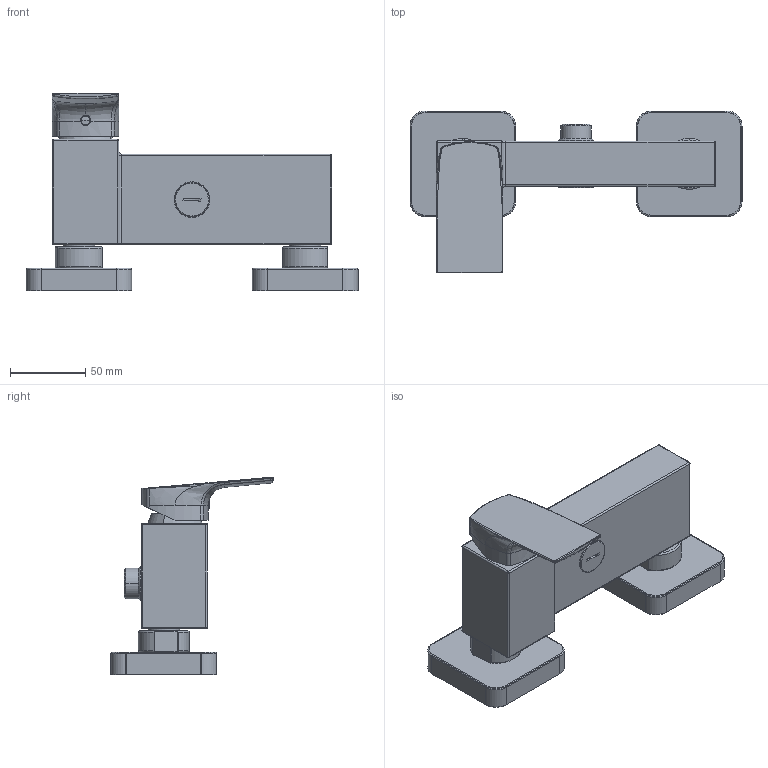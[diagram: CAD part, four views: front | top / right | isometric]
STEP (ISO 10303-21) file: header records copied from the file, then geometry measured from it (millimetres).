
FILE_DESCRIPTION((''),'2;1');
FILE_NAME('3D_SW0003','2024-10-08T08:51:45',('volponeff'),(''),'CREO PARAMETRIC BY PTC INC, 2022014','CREO PARAMETRIC BY PTC INC, 2022014','');
FILE_SCHEMA(('CONFIG_CONTROL_DESIGN'));
Length unit declared in the file: millimetre
Products named in the file (1): 3D_SW0003
Bounding box: 220 x 107.5 x 131.04 mm (x, y, z)
Volume: 234358.6 mm3; surface area: 155529.3 mm2
Topology: 2 solids, 2 shells, 1277 faces, 3026 edges, 1790 vertices
Faces by surface type: cylinder 521, plane 331, torus 128, cone 112, bspline 109, sphere 76
Entity records: 45074 total; most frequent: CARTESIAN_POINT 15898, DIRECTION 6320, ORIENTED_EDGE 6024, EDGE_CURVE 3012, AXIS2_PLACEMENT_3D 2544, VERTEX_POINT 1788, CIRCLE 1376, EDGE_LOOP 1356
